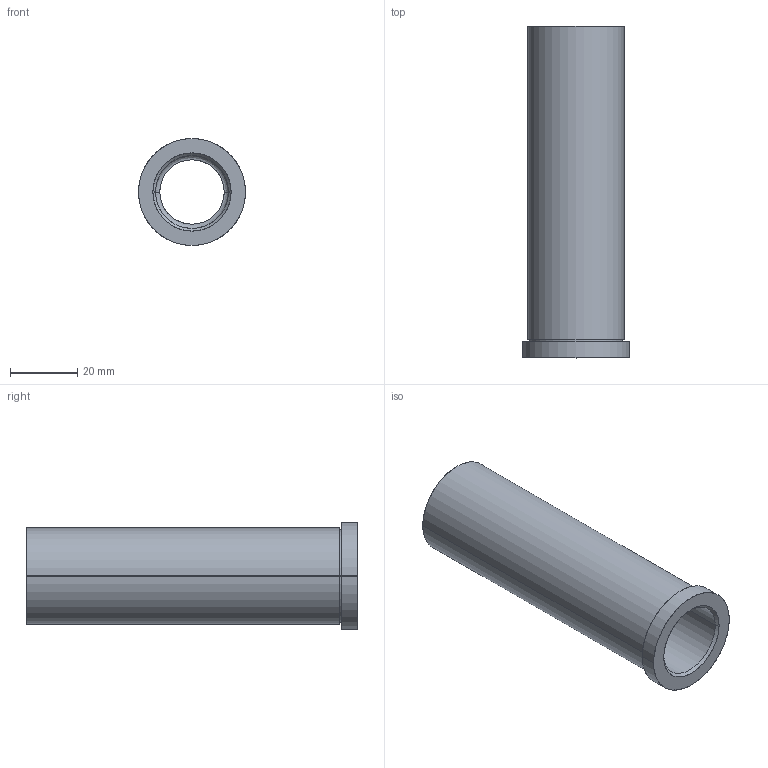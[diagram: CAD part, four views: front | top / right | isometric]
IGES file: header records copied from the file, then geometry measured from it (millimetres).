
Start section: SolidWorks IGES file using analytic representation for surfaces
Global section: file name: C:\Users\Ryan\Documents\PCS\Shoulder Bushings\BU-106.igs; native system: SolidWorks 2009; preprocessor: SolidWorks 2009; author: Ryan; date: 140226.220440; units: inch
Bounding box: 31.75 x 98.42 x 31.75 mm (x, y, z)
Surface area: 16256 mm2 (no closed solid volume)
Topology: 0 solids, 0 shells, 20 faces, 512 edges, 512 vertices
Faces by surface type: revolution 12, bspline 8
